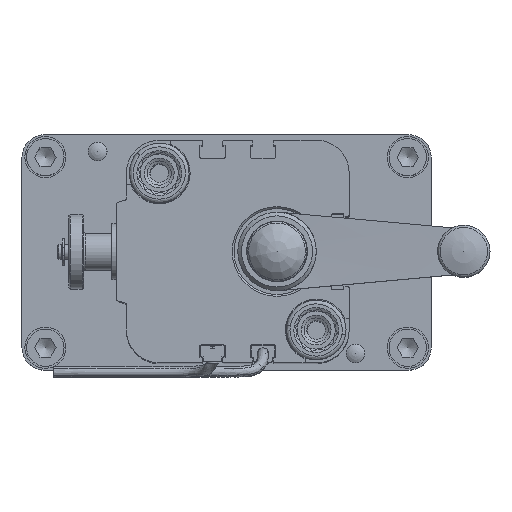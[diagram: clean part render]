
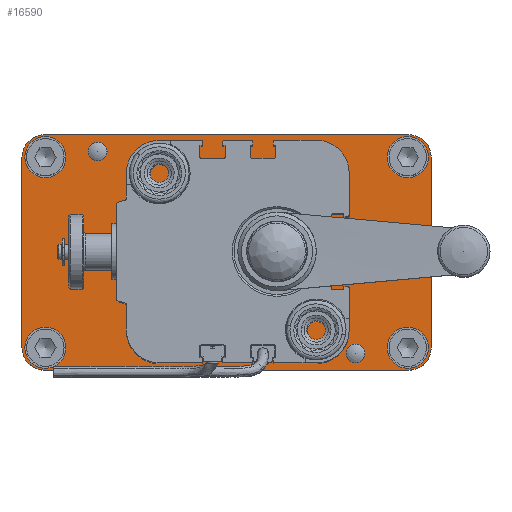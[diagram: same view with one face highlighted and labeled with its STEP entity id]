
A CAD part, top view. The second image highlights one B-rep face of the part: STEP entity #16590.
In plain terms, the highlighted planar face has unit normal (0, 0, 1).
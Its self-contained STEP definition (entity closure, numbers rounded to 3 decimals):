
#6859=LINE('',#50959,#8892);
#6862=LINE('',#50967,#8895);
#6866=LINE('',#50977,#8899);
#6873=LINE('',#50995,#8906);
#8892=VECTOR('',#41521,1.);
#8895=VECTOR('',#41530,1.);
#8899=VECTOR('',#41540,1.);
#8906=VECTOR('',#41555,1.);
#16590=ADVANCED_FACE('',(#18725,#18726,#18727,#18728,#18729,#18730,#18731,
#18732,#18733,#18734),#18060,.F.);
#18060=PLANE('',#38153);
#18725=FACE_BOUND('',#19885,.T.);
#18726=FACE_BOUND('',#19886,.T.);
#18727=FACE_BOUND('',#19887,.T.);
#18728=FACE_BOUND('',#19888,.T.);
#18729=FACE_BOUND('',#19889,.T.);
#18730=FACE_BOUND('',#19890,.T.);
#18731=FACE_BOUND('',#19891,.T.);
#18732=FACE_BOUND('',#19892,.T.);
#18733=FACE_BOUND('',#19893,.T.);
#18734=FACE_BOUND('',#19894,.T.);
#19885=EDGE_LOOP('',(#23774,#23775,#23776,#23777,#23778,#23779,#23780,#23781));
#19886=EDGE_LOOP('',(#23782));
#19887=EDGE_LOOP('',(#23783));
#19888=EDGE_LOOP('',(#23784));
#19889=EDGE_LOOP('',(#23785));
#19890=EDGE_LOOP('',(#23786));
#19891=EDGE_LOOP('',(#23787));
#19892=EDGE_LOOP('',(#23788));
#19893=EDGE_LOOP('',(#23789));
#19894=EDGE_LOOP('',(#23790));
#23774=ORIENTED_EDGE('',*,*,#33706,.F.);
#23775=ORIENTED_EDGE('',*,*,#33744,.F.);
#23776=ORIENTED_EDGE('',*,*,#33724,.F.);
#23777=ORIENTED_EDGE('',*,*,#33721,.F.);
#23778=ORIENTED_EDGE('',*,*,#33715,.F.);
#23779=ORIENTED_EDGE('',*,*,#33712,.F.);
#23780=ORIENTED_EDGE('',*,*,#33710,.F.);
#23781=ORIENTED_EDGE('',*,*,#33708,.F.);
#23782=ORIENTED_EDGE('',*,*,#33741,.F.);
#23783=ORIENTED_EDGE('',*,*,#33697,.F.);
#23784=ORIENTED_EDGE('',*,*,#33740,.F.);
#23785=ORIENTED_EDGE('',*,*,#33731,.T.);
#23786=ORIENTED_EDGE('',*,*,#33729,.T.);
#23787=ORIENTED_EDGE('',*,*,#33728,.T.);
#23788=ORIENTED_EDGE('',*,*,#33727,.T.);
#23789=ORIENTED_EDGE('',*,*,#33726,.F.);
#23790=ORIENTED_EDGE('',*,*,#33699,.F.);
#30470=VERTEX_POINT('',#50940);
#30472=VERTEX_POINT('',#50945);
#30478=VERTEX_POINT('',#50958);
#30479=VERTEX_POINT('',#50960);
#30480=VERTEX_POINT('',#50964);
#30481=VERTEX_POINT('',#50968);
#30482=VERTEX_POINT('',#50972);
#30484=VERTEX_POINT('',#50978);
#30489=VERTEX_POINT('',#50990);
#30491=VERTEX_POINT('',#50996);
#30492=VERTEX_POINT('',#51000);
#30493=VERTEX_POINT('',#51003);
#30494=VERTEX_POINT('',#51006);
#30495=VERTEX_POINT('',#51009);
#30497=VERTEX_POINT('',#51014);
#30505=VERTEX_POINT('',#51032);
#30506=VERTEX_POINT('',#51035);
#33697=EDGE_CURVE('',#30470,#30470,#36848,.T.);
#33699=EDGE_CURVE('',#30472,#30472,#36850,.T.);
#33706=EDGE_CURVE('',#30478,#30479,#6859,.T.);
#33708=EDGE_CURVE('',#30479,#30480,#36852,.T.);
#33710=EDGE_CURVE('',#30480,#30481,#6862,.T.);
#33712=EDGE_CURVE('',#30481,#30482,#36853,.T.);
#33715=EDGE_CURVE('',#30482,#30484,#6866,.T.);
#33721=EDGE_CURVE('',#30484,#30489,#36855,.T.);
#33724=EDGE_CURVE('',#30489,#30491,#6873,.T.);
#33726=EDGE_CURVE('',#30492,#30492,#36856,.T.);
#33727=EDGE_CURVE('',#30493,#30493,#36857,.T.);
#33728=EDGE_CURVE('',#30494,#30494,#36858,.T.);
#33729=EDGE_CURVE('',#30495,#30495,#36859,.T.);
#33731=EDGE_CURVE('',#30497,#30497,#36861,.T.);
#33740=EDGE_CURVE('',#30505,#30505,#36866,.T.);
#33741=EDGE_CURVE('',#30506,#30506,#36867,.T.);
#33744=EDGE_CURVE('',#30491,#30478,#36870,.T.);
#36848=CIRCLE('',#38113,3.25);
#36850=CIRCLE('',#38116,3.25);
#36852=CIRCLE('',#38120,6.);
#36853=CIRCLE('',#38123,6.);
#36855=CIRCLE('',#38127,6.);
#36856=CIRCLE('',#38130,2.488);
#36857=CIRCLE('',#38132,3.25);
#36858=CIRCLE('',#38134,3.25);
#36859=CIRCLE('',#38136,3.25);
#36861=CIRCLE('',#38139,3.25);
#36866=CIRCLE('',#38145,15.005);
#36867=CIRCLE('',#38147,2.488);
#36870=CIRCLE('',#38151,6.);
#38113=AXIS2_PLACEMENT_3D('',#50939,#41504,#41505);
#38116=AXIS2_PLACEMENT_3D('',#50944,#41510,#41511);
#38120=AXIS2_PLACEMENT_3D('',#50963,#41525,#41526);
#38123=AXIS2_PLACEMENT_3D('',#50971,#41534,#41535);
#38127=AXIS2_PLACEMENT_3D('',#50989,#41549,#41550);
#38130=AXIS2_PLACEMENT_3D('',#50999,#41559,#41560);
#38132=AXIS2_PLACEMENT_3D('',#51002,#41563,#41564);
#38134=AXIS2_PLACEMENT_3D('',#51005,#41567,#41568);
#38136=AXIS2_PLACEMENT_3D('',#51008,#41571,#41572);
#38139=AXIS2_PLACEMENT_3D('',#51013,#41577,#41578);
#38145=AXIS2_PLACEMENT_3D('',#51031,#41593,#41594);
#38147=AXIS2_PLACEMENT_3D('',#51034,#41597,#41598);
#38151=AXIS2_PLACEMENT_3D('',#51040,#41605,#41606);
#38153=AXIS2_PLACEMENT_3D('',#51042,#41609,#41610);
#41504=DIRECTION('',(0.,0.,1.));
#41505=DIRECTION('',(1.,0.,0.));
#41510=DIRECTION('',(0.,0.,1.));
#41511=DIRECTION('',(1.,0.,0.));
#41521=DIRECTION('',(-1.,0.,0.));
#41525=DIRECTION('',(0.,0.,-1.));
#41526=DIRECTION('',(1.,0.,0.));
#41530=DIRECTION('',(0.,1.,0.));
#41534=DIRECTION('',(0.,0.,-1.));
#41535=DIRECTION('',(1.,0.,0.));
#41540=DIRECTION('',(1.,0.,0.));
#41549=DIRECTION('',(0.,0.,-1.));
#41550=DIRECTION('',(1.,0.,0.));
#41555=DIRECTION('',(0.,-1.,0.));
#41559=DIRECTION('',(0.,0.,1.));
#41560=DIRECTION('',(1.,0.,0.));
#41563=DIRECTION('',(0.,0.,-1.));
#41564=DIRECTION('',(1.,0.,0.));
#41567=DIRECTION('',(0.,0.,-1.));
#41568=DIRECTION('',(1.,0.,0.));
#41571=DIRECTION('',(0.,0.,-1.));
#41572=DIRECTION('',(1.,0.,0.));
#41577=DIRECTION('',(0.,0.,-1.));
#41578=DIRECTION('',(1.,0.,0.));
#41593=DIRECTION('',(0.,0.,1.));
#41594=DIRECTION('',(1.,0.,0.));
#41597=DIRECTION('',(0.,0.,1.));
#41598=DIRECTION('',(1.,0.,0.));
#41605=DIRECTION('',(0.,0.,-1.));
#41606=DIRECTION('',(1.,0.,0.));
#41609=DIRECTION('',(0.,0.,-1.));
#41610=DIRECTION('',(-1.,0.,0.));
#50939=CARTESIAN_POINT('',(-21.,-21.,8.5));
#50940=CARTESIAN_POINT('',(-17.75,-21.,8.5));
#50944=CARTESIAN_POINT('',(21.,21.,8.5));
#50945=CARTESIAN_POINT('',(24.25,21.,8.5));
#50958=CARTESIAN_POINT('',(48.75,-31.5,8.5));
#50959=CARTESIAN_POINT('',(48.75,-31.5,8.5));
#50960=CARTESIAN_POINT('',(-48.75,-31.5,8.5));
#50963=CARTESIAN_POINT('',(-48.75,-25.5,8.5));
#50964=CARTESIAN_POINT('',(-54.75,-25.5,8.5));
#50967=CARTESIAN_POINT('',(-54.75,-25.5,8.5));
#50968=CARTESIAN_POINT('',(-54.75,25.5,8.5));
#50971=CARTESIAN_POINT('',(-48.75,25.5,8.5));
#50972=CARTESIAN_POINT('',(-48.75,31.5,8.5));
#50977=CARTESIAN_POINT('',(-48.75,31.5,8.5));
#50978=CARTESIAN_POINT('',(48.75,31.5,8.5));
#50989=CARTESIAN_POINT('',(48.75,25.5,8.5));
#50990=CARTESIAN_POINT('',(54.75,25.5,8.5));
#50995=CARTESIAN_POINT('',(54.75,25.5,8.5));
#50996=CARTESIAN_POINT('',(54.75,-25.5,8.5));
#50999=CARTESIAN_POINT('',(-34.5,27.,8.5));
#51000=CARTESIAN_POINT('',(-32.012,27.,8.5));
#51002=CARTESIAN_POINT('',(-48.5,-25.5,8.5));
#51003=CARTESIAN_POINT('',(-45.25,-25.5,8.5));
#51005=CARTESIAN_POINT('',(-48.5,25.5,8.5));
#51006=CARTESIAN_POINT('',(-45.25,25.5,8.5));
#51008=CARTESIAN_POINT('',(48.5,25.5,8.5));
#51009=CARTESIAN_POINT('',(51.75,25.5,8.5));
#51013=CARTESIAN_POINT('',(48.5,-25.5,8.5));
#51014=CARTESIAN_POINT('',(51.75,-25.5,8.5));
#51031=CARTESIAN_POINT('',(0.,0.,8.5));
#51032=CARTESIAN_POINT('',(15.005,0.,8.5));
#51034=CARTESIAN_POINT('',(34.5,-27.,8.5));
#51035=CARTESIAN_POINT('',(36.988,-27.,8.5));
#51040=CARTESIAN_POINT('',(48.75,-25.5,8.5));
#51042=CARTESIAN_POINT('',(-48.75,-25.5,8.5));
